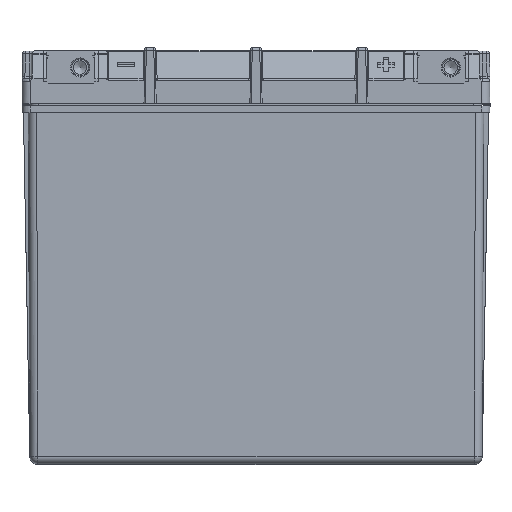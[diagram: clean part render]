
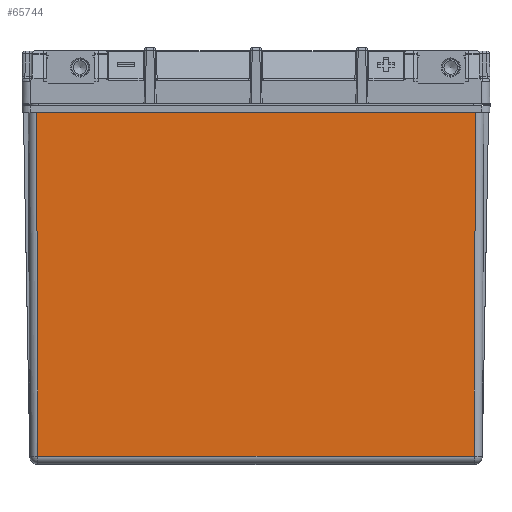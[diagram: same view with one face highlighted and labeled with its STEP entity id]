
A CAD part, top view. The second image highlights one B-rep face of the part: STEP entity #65744.
In plain terms, the highlighted planar face has unit normal (0, -0.004, 1).
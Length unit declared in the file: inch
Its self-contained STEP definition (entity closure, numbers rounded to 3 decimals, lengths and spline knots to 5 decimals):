
#31 = DIRECTION ( 'NONE',  ( -1., 0., 0. ) ) ;
#5832 = CARTESIAN_POINT ( 'NONE',  ( -3.21994, 5.1315, 1.59499 ) ) ;
#7427 = FACE_OUTER_BOUND ( 'NONE', #12964, .T. ) ;
#9075 = EDGE_CURVE ( 'NONE', #39714, #33640, #49157, .T. ) ;
#12964 = EDGE_LOOP ( 'NONE', ( #23558, #62657, #73257, #45241 ) ) ;
#17555 = DIRECTION ( 'NONE',  ( 0.004, 1., 0.004 ) ) ;
#17955 = EDGE_CURVE ( 'NONE', #45918, #42458, #65863, .T. ) ;
#19316 = VECTOR ( 'NONE', #17555, 39.37008 ) ;
#23321 = CARTESIAN_POINT ( 'NONE',  ( 3.31206, 5.16, 1.59511 ) ) ;
#23558 = ORIENTED_EDGE ( 'NONE', *, *, #17955, .T. ) ;
#25510 = AXIS2_PLACEMENT_3D ( 'NONE', #25873, #37475, #61186 ) ;
#25873 = CARTESIAN_POINT ( 'NONE',  ( 3.31206, 5.16, 1.59511 ) ) ;
#25896 = DIRECTION ( 'NONE',  ( 1., 0., 0. ) ) ;
#27457 = VECTOR ( 'NONE', #31, 39.37008 ) ;
#33640 = VERTEX_POINT ( 'NONE', #67598 ) ;
#37475 = DIRECTION ( 'NONE',  ( 0., -0.004, 1. ) ) ;
#38204 = VECTOR ( 'NONE', #25896, 39.37008 ) ;
#39138 = EDGE_CURVE ( 'NONE', #42458, #39714, #72828, .T. ) ;
#39714 = VERTEX_POINT ( 'NONE', #47117 ) ;
#41998 = CARTESIAN_POINT ( 'NONE',  ( 3.22007, 5.1604, 1.59512 ) ) ;
#42318 = DIRECTION ( 'NONE',  ( 0.004, -1., -0.004 ) ) ;
#42458 = VERTEX_POINT ( 'NONE', #43680 ) ;
#43680 = CARTESIAN_POINT ( 'NONE',  ( -3.22006, 5.16, 1.59511 ) ) ;
#43933 = CARTESIAN_POINT ( 'NONE',  ( 3.31755, 0.11948, 1.57312 ) ) ;
#45241 = ORIENTED_EDGE ( 'NONE', *, *, #67887, .T. ) ;
#45918 = VERTEX_POINT ( 'NONE', #62502 ) ;
#47117 = CARTESIAN_POINT ( 'NONE',  ( -3.19807, 0.11948, 1.57312 ) ) ;
#49157 = LINE ( 'NONE', #43933, #38204 ) ;
#56353 = PLANE ( 'NONE',  #25510 ) ;
#57668 = VECTOR ( 'NONE', #42318, 39.37008 ) ;
#61186 = DIRECTION ( 'NONE',  ( 0., 1., 0.004 ) ) ;
#62502 = CARTESIAN_POINT ( 'NONE',  ( 3.22006, 5.16, 1.59511 ) ) ;
#62657 = ORIENTED_EDGE ( 'NONE', *, *, #39138, .T. ) ;
#65744 = ADVANCED_FACE ( 'NONE', ( #7427 ), #56353, .T. ) ;
#65863 = LINE ( 'NONE', #23321, #27457 ) ;
#66494 = LINE ( 'NONE', #41998, #19316 ) ;
#67598 = CARTESIAN_POINT ( 'NONE',  ( 3.19807, 0.11948, 1.57312 ) ) ;
#67887 = EDGE_CURVE ( 'NONE', #33640, #45918, #66494, .T. ) ;
#72828 = LINE ( 'NONE', #5832, #57668 ) ;
#73257 = ORIENTED_EDGE ( 'NONE', *, *, #9075, .T. ) ;
